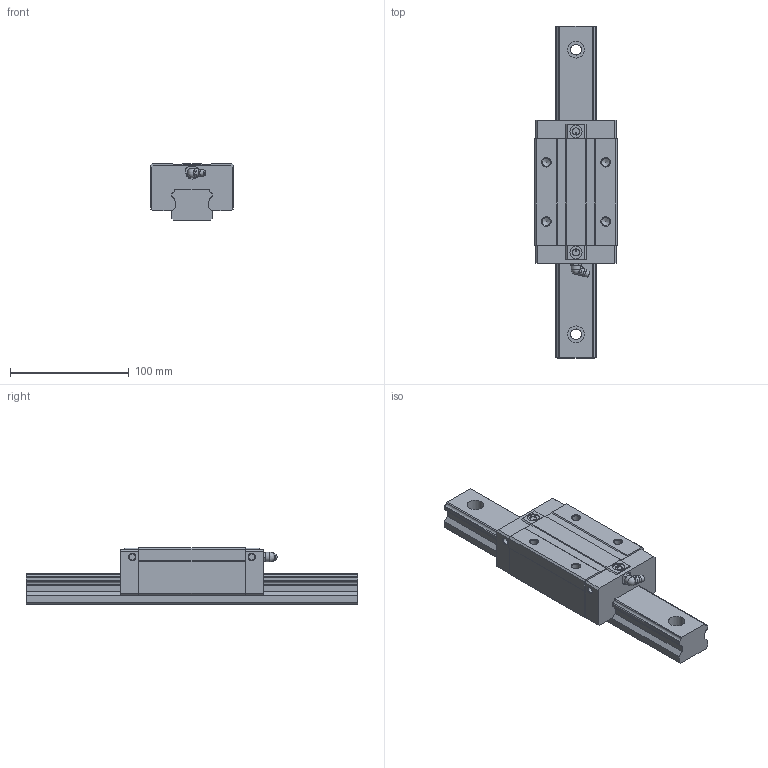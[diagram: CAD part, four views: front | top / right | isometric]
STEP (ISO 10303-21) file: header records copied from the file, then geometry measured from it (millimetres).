
FILE_DESCRIPTION(/* description */ (''),/* implementation_level */ '2;1');
FILE_NAME(/* name */ 'SME35-SB',/* time_stamp */ '2008-10-06T10:35:41+08:00',/* author */ (''),/* organization */ (''),/* preprocessor_version */ 'ST-DEVELOPER v11',/* originating_system */ 'UGS - NX 5.0',/* authorisation */ '');
FILE_SCHEMA (('AUTOMOTIVE_DESIGN { 1 0 10303 214 1 1 1 1 }'));
Length unit declared in the file: millimetre
Products named in the file (1): jillBD1Calob
Bounding box: 70 x 280 x 48 mm (x, y, z)
Volume: 477815.7 mm3; surface area: 76083.4 mm2
Topology: 3 solids, 3 shells, 187 faces, 483 edges, 318 vertices
Faces by surface type: plane 113, cylinder 49, cone 13, torus 7, sphere 4, bspline 1
Full cylindrical faces by diameter (mm): 5.2 x4, 6 x2, 6.5 x2, 6.8 x4, 8 x1, 9 x4, 10.2 x2, 14 x4
Entity records: 5719 total; most frequent: CARTESIAN_POINT 1076, DIRECTION 902, ORIENTED_EDGE 842, EDGE_CURVE 421, AXIS2_PLACEMENT_3D 312, VERTEX_POINT 302, LINE 278, VECTOR 278
